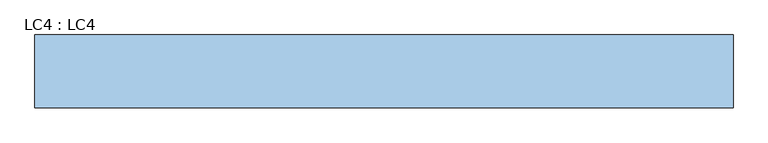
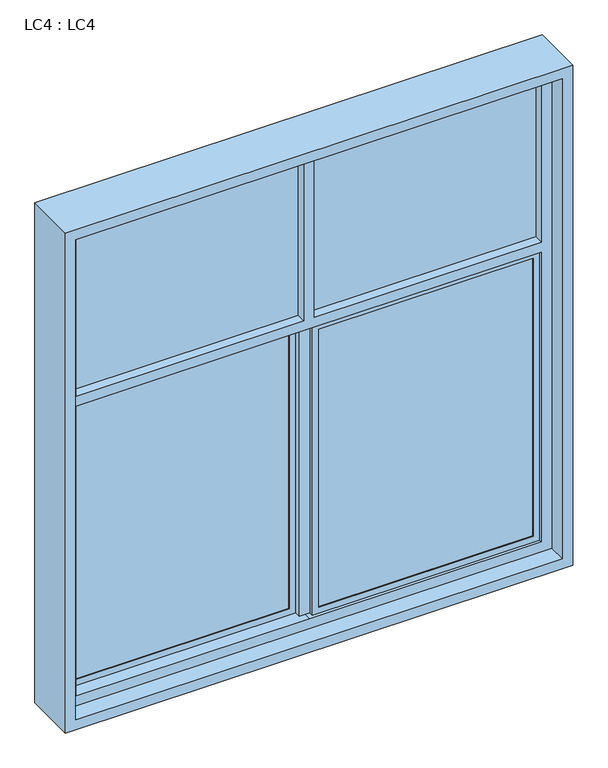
"""IFC4 building model written with IfcOpenShell, lengths in millimetres: window geometry, LC4 : LC4."""

from ifc_helpers import new_model, si_unit, frame, origin, place, context, project, spatial, polyline, outline, extrude, source, transform, mapped, element, save


def lc4_lc4_b4c6c5ac(model_context):
    return source(origin(), model_context, "Body", "SweptSolid", [
        extrude(outline(polyline([(1070.0, -20.0), (1070.0, -30.0), (55.0, -30.0), (55.0, -20.0), (1070.0, -20.0)])), frame((0.0, 0.0, 1030.0), z_axis=(0.0, 0.0, 1.0), x_axis=(1.0, 0.0, 0.0)), (0.0, 0.0, 1.0), 1390.0),
        extrude(outline(polyline([(-55.0, 30.0), (-55.0, 20.0), (-1070.0, 20.0), (-1070.0, 30.0), (-55.0, 30.0)])), frame((0.0, 0.0, 1030.0), z_axis=(0.0, 0.0, 1.0), x_axis=(1.0, 0.0, 0.0)), (0.0, 0.0, 1.0), 1390.0),
        extrude(outline(polyline([(-25.0, 5.0), (-25.0, -5.0), (-1100.0, -5.0), (-1100.0, 5.0), (-25.0, 5.0)])), frame((0.0, 0.0, 2500.0), z_axis=(0.0, 0.0, 1.0), x_axis=(1.0, 0.0, 0.0)), (0.0, 0.0, 1.0), 800.0),
        extrude(outline(polyline([(1100.0, 5.0), (1100.0, -5.0), (25.0, -5.0), (25.0, 5.0), (1100.0, 5.0)])), frame((0.0, 0.0, 2500.0), z_axis=(0.0, 0.0, 1.0), x_axis=(1.0, 0.0, 0.0)), (0.0, 0.0, 1.0), 800.0),
        extrude(outline(polyline([(25.0, 15.0), (25.0, -15.0), (-25.0, -15.0), (-25.0, 15.0), (25.0, 15.0)])), frame((0.0, 0.0, 1000.0), z_axis=(0.0, 0.0, 1.0), x_axis=(1.0, 0.0, 0.0)), (0.0, 0.0, 1.0), 1450.0),
        extrude(outline(polyline([(2450.0, 1100.0), (2450.0, 25.0), (1000.0, 25.0), (1000.0, 1100.0), (2450.0, 1100.0)]), holes=[polyline([(2420.0, 1070.0), (1030.0, 1070.0), (1030.0, 55.0), (2420.0, 55.0), (2420.0, 1070.0)])]), frame((0.0, -35.0, 0.0), z_axis=(0.0, 1.0, 0.0), x_axis=(0.0, 0.0, 1.0)), (0.0, 0.0, 1.0), 20.0),
        extrude(outline(polyline([(2450.0, -25.0), (2450.0, -1100.0), (1000.0, -1100.0), (1000.0, -25.0), (2450.0, -25.0)]), holes=[polyline([(2420.0, -55.0), (1030.0, -55.0), (1030.0, -1070.0), (2420.0, -1070.0), (2420.0, -55.0)])]), frame((0.0, 15.0, 0.0), z_axis=(0.0, 1.0, 0.0), x_axis=(0.0, 0.0, 1.0)), (0.0, 0.0, 1.0), 20.0),
        extrude(outline(polyline([(3350.0, 1150.0), (3350.0, -1150.0), (950.0, -1150.0), (950.0, 1150.0), (3350.0, 1150.0)]), holes=[polyline([(3300.0, -25.0), (2500.0, -25.0), (2500.0, -1100.0), (3300.0, -1100.0), (3300.0, -25.0)]), polyline([(3300.0, 1100.0), (2500.0, 1100.0), (2500.0, 25.0), (3300.0, 25.0), (3300.0, 1100.0)]), polyline([(2450.0, 1.4599267), (2450.0, 1100.0), (1000.0, 1100.0), (1000.0, 1.4599267), (1000.0, -1100.0), (2450.0, -1100.0), (2450.0, 1.4599267)])]), frame((0.0, -50.0, 0.0), z_axis=(0.0, 1.0, 0.0), x_axis=(0.0, 0.0, 1.0)), (0.0, 0.0, 1.0), 100.0),
        extrude(outline(polyline([(3400.0, 1200.0), (3400.0, -1200.0), (900.0, -1200.0), (900.0, 1200.0), (3400.0, 1200.0)]), holes=[polyline([(3350.0, 1150.0), (950.0, 1150.0), (950.0, -1150.0), (3350.0, -1150.0), (3350.0, 1150.0)])]), frame((0.0, -133.6988661, 0.0), z_axis=(0.0, 1.0, 0.0), x_axis=(0.0, 0.0, 1.0)), (0.0, 0.0, 1.0), 250.0),
    ])


if __name__ == "__main__":
    model = new_model("IFC4")
    model_context = context("Model", 3, world=origin())
    ifc_project = project(units=[si_unit("LENGTHUNIT", "METRE", prefix="MILLI")], contexts=[model_context])
    site = spatial("IfcSite", under=ifc_project)
    building = spatial("IfcBuilding", under=site)
    placement = place(None, origin())
    lc4_lc4_shape = lc4_lc4_b4c6c5ac(model_context)
    element("IfcWindow", 1, ObjectType="LC4 : LC4", at=placement, inside=building, context=model_context, shape_type="MappedRepresentation", body=[
        mapped(lc4_lc4_shape, transform((0.0, 0.0, 0.0), x_axis=(1.0, 0.0, 0.0), y_axis=(0.0, 1.0, 0.0), z_axis=(0.0, 0.0, 1.0))),
    ])
    save(model, "model.ifc")
